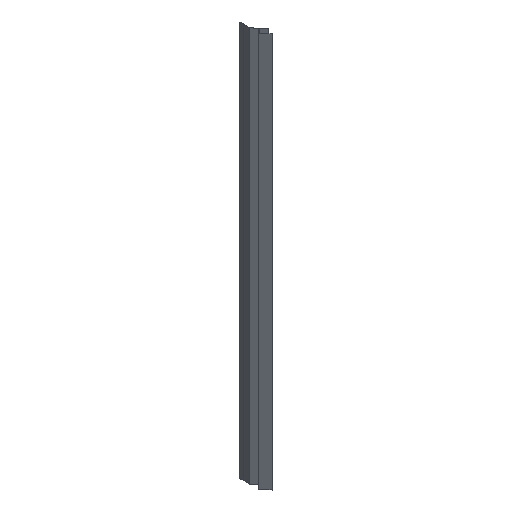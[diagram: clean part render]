
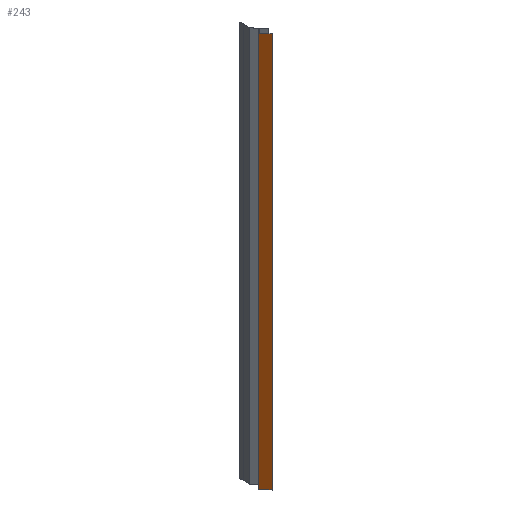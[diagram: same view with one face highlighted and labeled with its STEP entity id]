
A CAD part, isometric view. The second image highlights one B-rep face of the part: STEP entity #243.
In plain terms, the highlighted planar face has unit normal (-0.766, -0.643, 0).
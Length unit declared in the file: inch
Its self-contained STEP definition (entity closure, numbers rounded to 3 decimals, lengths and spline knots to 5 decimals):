
#70 = CARTESIAN_POINT ( 'NONE',  ( -0.05482, -2.64941, 120. ) ) ;
#91 = FACE_OUTER_BOUND ( 'NONE', #732, .T. ) ;
#119 = LINE ( 'NONE', #978, #123 ) ;
#123 = VECTOR ( 'NONE', #491, 39.37008 ) ;
#140 = VERTEX_POINT ( 'NONE', #684 ) ;
#148 = ORIENTED_EDGE ( 'NONE', *, *, #1027, .T. ) ;
#159 = CARTESIAN_POINT ( 'NONE',  ( -0.05482, -2.64941, 120. ) ) ;
#211 = LINE ( 'NONE', #159, #307 ) ;
#243 = ADVANCED_FACE ( 'NONE', ( #91 ), #348, .F. ) ;
#248 = VERTEX_POINT ( 'NONE', #704 ) ;
#304 = EDGE_CURVE ( 'NONE', #140, #497, #513, .T. ) ;
#307 = VECTOR ( 'NONE', #1057, 39.37008 ) ;
#348 = PLANE ( 'NONE',  #452 ) ;
#439 = CARTESIAN_POINT ( 'NONE',  ( -0.05482, -2.64941, 120. ) ) ;
#452 = AXIS2_PLACEMENT_3D ( 'NONE', #439, #481, #617 ) ;
#475 = ORIENTED_EDGE ( 'NONE', *, *, #304, .F. ) ;
#481 = DIRECTION ( 'NONE',  ( 0.766, 0.643, 0. ) ) ;
#491 = DIRECTION ( 'NONE',  ( 0.643, -0.766, 0. ) ) ;
#497 = VERTEX_POINT ( 'NONE', #804 ) ;
#513 = LINE ( 'NONE', #679, #560 ) ;
#555 = DIRECTION ( 'NONE',  ( 0., 0., -1. ) ) ;
#560 = VECTOR ( 'NONE', #555, 39.37008 ) ;
#591 = EDGE_CURVE ( 'NONE', #248, #497, #627, .T. ) ;
#615 = ORIENTED_EDGE ( 'NONE', *, *, #591, .T. ) ;
#617 = DIRECTION ( 'NONE',  ( -0.643, 0.766, 0. ) ) ;
#627 = LINE ( 'NONE', #734, #683 ) ;
#679 = CARTESIAN_POINT ( 'NONE',  ( 1.87355, -4.94754, 120. ) ) ;
#683 = VECTOR ( 'NONE', #902, 39.37008 ) ;
#684 = CARTESIAN_POINT ( 'NONE',  ( 1.87355, -4.94754, 120. ) ) ;
#704 = CARTESIAN_POINT ( 'NONE',  ( -0.05482, -2.64941, 0. ) ) ;
#732 = EDGE_LOOP ( 'NONE', ( #615, #475, #810, #148 ) ) ;
#734 = CARTESIAN_POINT ( 'NONE',  ( -0.05482, -2.64941, 0. ) ) ;
#758 = VERTEX_POINT ( 'NONE', #70 ) ;
#789 = EDGE_CURVE ( 'NONE', #758, #140, #119, .T. ) ;
#804 = CARTESIAN_POINT ( 'NONE',  ( 1.87355, -4.94754, 0. ) ) ;
#810 = ORIENTED_EDGE ( 'NONE', *, *, #789, .F. ) ;
#902 = DIRECTION ( 'NONE',  ( 0.643, -0.766, 0. ) ) ;
#978 = CARTESIAN_POINT ( 'NONE',  ( -0.05482, -2.64941, 120. ) ) ;
#1027 = EDGE_CURVE ( 'NONE', #758, #248, #211, .T. ) ;
#1057 = DIRECTION ( 'NONE',  ( 0., 0., -1. ) ) ;
